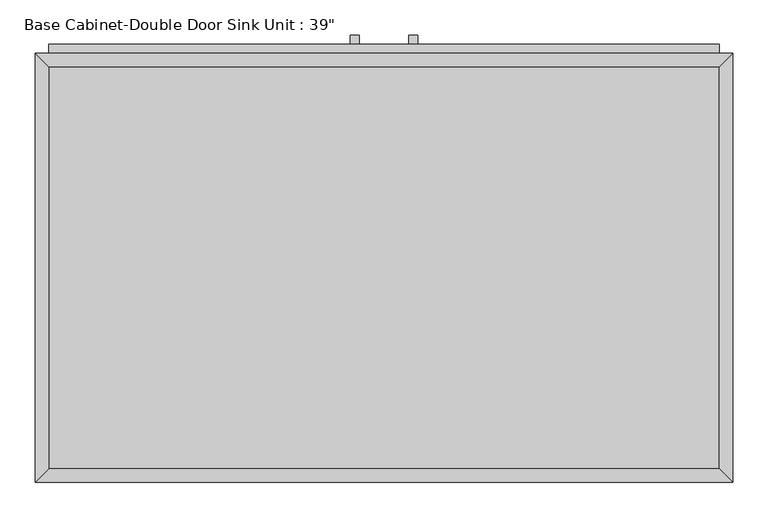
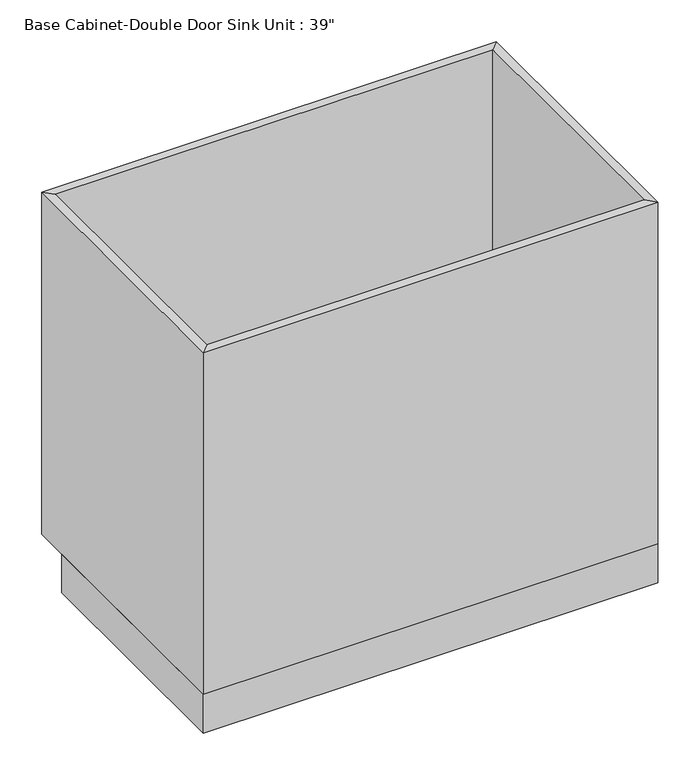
"""IFC4 building model written with IfcOpenShell, lengths in millimetres: furniture geometry."""

from ifc_helpers import new_model, si_unit, frame, origin, origin_with_axes, place, context, project, spatial, polyline, outline, extrude, faceted_brep, source, transform, mapped, element, save


def furniture_a113b24a(model_context):
    return source(origin(), model_context, "Body", "SolidModel", [
        extrude(outline(polyline([(-16.1872951, 635.0), (-16.1872951, 622.3), (-28.8872951, 622.3), (-28.8872951, 635.0), (-16.1872951, 635.0)])), frame((0.0, 0.0, 573.769895), z_axis=(0.0, 0.0, 1.0), x_axis=(1.0, 0.0, 0.0)), (0.0, 0.0, 1.0), 124.730105),
        extrude(outline(polyline([(66.3627049, 635.0), (66.3627049, 622.3), (53.6627049, 622.3), (53.6627049, 635.0), (66.3627049, 635.0)])), frame((0.0, 0.0, 573.769895), z_axis=(0.0, 0.0, 1.0), x_axis=(1.0, 0.0, 0.0)), (0.0, 0.0, 1.0), 124.730105),
        extrude(outline(polyline([(494.9877049, 19.05), (-457.5122951, 19.05), (-457.5122951, 590.55), (494.9877049, 590.55), (494.9877049, 19.05)])), frame((0.0, 0.0, 88.9), z_axis=(0.0, 0.0, 1.0), x_axis=(1.0, 0.0, 0.0)), (0.0, 0.0, 1.0), 19.05),
        faceted_brep([(494.9877049, 590.55, 876.3), (-457.5122951, 590.55, 876.3), (-457.5122951, 590.55, 88.9), (494.9877049, 590.55, 88.9), (514.0377049, 609.6, 876.3), (-476.5622951, 609.6, 876.3), (514.0377049, 609.6, 88.9), (-476.5622951, 609.6, 88.9), (-457.5122951, 19.05, 876.3), (-457.5122951, 19.05, 88.9), (-476.5622951, 0.0, 876.3), (-476.5622951, 0.0, 88.9), (494.9877049, 19.05, 876.3), (494.9877049, 19.05, 88.9), (514.0377049, 0.0, 876.3), (514.0377049, 0.0, 88.9)], [[[0, 1, 2, 3]], [[4, 5, 1, 0]], [[6, 7, 5, 4]], [[3, 2, 7, 6]], [[1, 8, 9, 2]], [[5, 10, 8, 1]], [[7, 11, 10, 5]], [[2, 9, 11, 7]], [[8, 12, 13, 9]], [[10, 14, 12, 8]], [[11, 15, 14, 10]], [[9, 13, 15, 11]], [[12, 0, 3, 13]], [[14, 4, 0, 12]], [[15, 6, 4, 14]], [[13, 3, 6, 15]]]),
        extrude(outline(polyline([(514.0377049, 0.0), (-476.5622951, 0.0), (-476.5622951, 533.4), (514.0377049, 533.4), (514.0377049, 0.0)])), origin_with_axes(), (0.0, 0.0, 1.0), 88.9),
        extrude(outline(polyline([(9.2127049, 622.3), (9.2127049, 609.6), (-457.5122951, 609.6), (-457.5122951, 622.3), (9.2127049, 622.3)])), frame((0.0, 0.0, 107.95), z_axis=(0.0, 0.0, 1.0), x_axis=(1.0, 0.0, 0.0)), (0.0, 0.0, 1.0), 628.65),
        extrude(outline(polyline([(494.9877049, 622.3), (494.9877049, 609.6), (28.2627049, 609.6), (28.2627049, 622.3), (494.9877049, 622.3)])), frame((0.0, 0.0, 107.95), z_axis=(0.0, 0.0, 1.0), x_axis=(1.0, 0.0, 0.0)), (0.0, 0.0, 1.0), 628.65),
        extrude(outline(polyline([(494.9877049, 622.3), (494.9877049, 609.6), (-457.5122951, 609.6), (-457.5122951, 622.3), (494.9877049, 622.3)])), frame((0.0, 0.0, 755.65), z_axis=(0.0, 0.0, 1.0), x_axis=(1.0, 0.0, 0.0)), (0.0, 0.0, 1.0), 101.6),
    ])


if __name__ == "__main__":
    model = new_model("IFC4")
    model_context = context("Model", 3, world=origin())
    ifc_project = project(units=[si_unit("LENGTHUNIT", "METRE", prefix="MILLI")], contexts=[model_context])
    site = spatial("IfcSite", under=ifc_project)
    building = spatial("IfcBuilding", under=site)
    placement = place(None, origin())
    furniture_shape = furniture_a113b24a(model_context)
    element("IfcFurniture", 1, ObjectType="Base Cabinet-Double Door Sink Unit : 39\"", at=placement, inside=building, context=model_context, shape_type="MappedRepresentation", body=[
        mapped(furniture_shape, transform((0.0, 0.0, 0.0), x_axis=(1.0, 0.0, 0.0), y_axis=(0.0, 1.0, 0.0), z_axis=(0.0, 0.0, 1.0))),
    ])
    save(model, "model.ifc")
